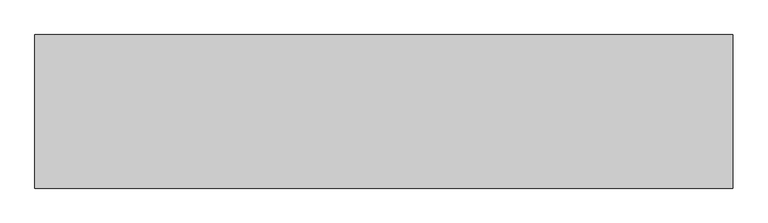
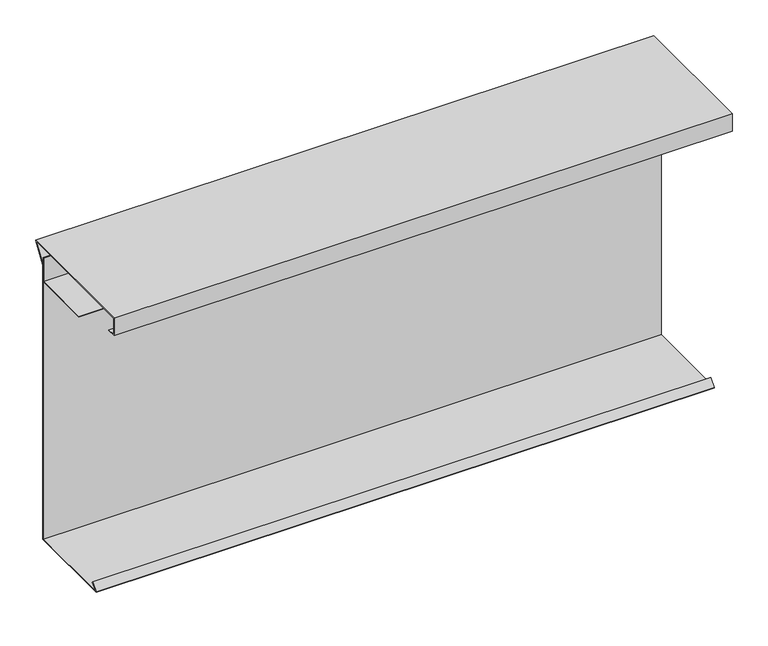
"""IFC4 building model written with IfcOpenShell, lengths in millimetres: proxy geometry, Alubel Alu-Skin Upper Closure Type 1 : Alubel Alu-Skin Upper Closure Type 1."""

from ifc_helpers import new_model, si_unit, frame, origin, place, context, project, spatial, polyline, outline, extrude, source, transform, mapped, element, save


def generic_models_4130ab79(model_context):
    return source(origin(), model_context, "Body", "SweptSolid", [
        extrude(outline(polyline([(49.0, 67.0), (-51.0, 67.0), (-51.0, 68.0), (48.0, 68.0), (48.0, 108.0), (49.0, 108.0), (49.0, 67.0)])), frame((0.0, 0.0, 0.0), z_axis=(1.0, 0.0, 0.0), x_axis=(0.0, 1.0, 0.0)), (0.0, 0.0, 1.0), 1000.0),
        extrude(outline(polyline([(69.0, 124.0), (-149.0, 124.0), (-149.0, 96.0), (-135.0, 96.0), (-135.0, 95.0), (-150.0, 95.0), (-150.0, 125.0), (70.0, 125.0), (70.0, 124.0), (50.0, 95.0), (50.0, -375.0), (-100.0, -375.0), (-100.0, -374.0), (-89.3933983, -363.3933983), (-88.6862915, -364.1005051), (-98.5857864, -374.0), (49.0, -374.0), (49.0, 95.0), (69.0, 124.0)])), frame((0.0, 0.0, 0.0), z_axis=(1.0, 0.0, 0.0), x_axis=(0.0, 1.0, 0.0)), (0.0, 0.0, 1.0), 1000.0),
    ])


if __name__ == "__main__":
    model = new_model("IFC4")
    model_context = context("Model", 3, world=origin())
    ifc_project = project(units=[si_unit("LENGTHUNIT", "METRE", prefix="MILLI")], contexts=[model_context])
    site = spatial("IfcSite", under=ifc_project)
    building = spatial("IfcBuilding", under=site)
    placement = place(None, origin())
    generic_models_shape = generic_models_4130ab79(model_context)
    element("IfcBuildingElementProxy", 1, Name="Alubel Alu-Skin Upper Closure Type 1 : Alubel Alu-Skin Upper Closure Type 1", ObjectType="Alubel Alu-Skin Upper Closure Type 1 : Alubel Alu-Skin Upper Closure Type 1", at=placement, inside=building, context=model_context, shape_type="MappedRepresentation", body=[
        mapped(generic_models_shape, transform((0.0, 0.0, 0.0), x_axis=(1.0, 0.0, 0.0), y_axis=(0.0, 1.0, 0.0), z_axis=(0.0, 0.0, 1.0))),
    ])
    save(model, "model.ifc")
